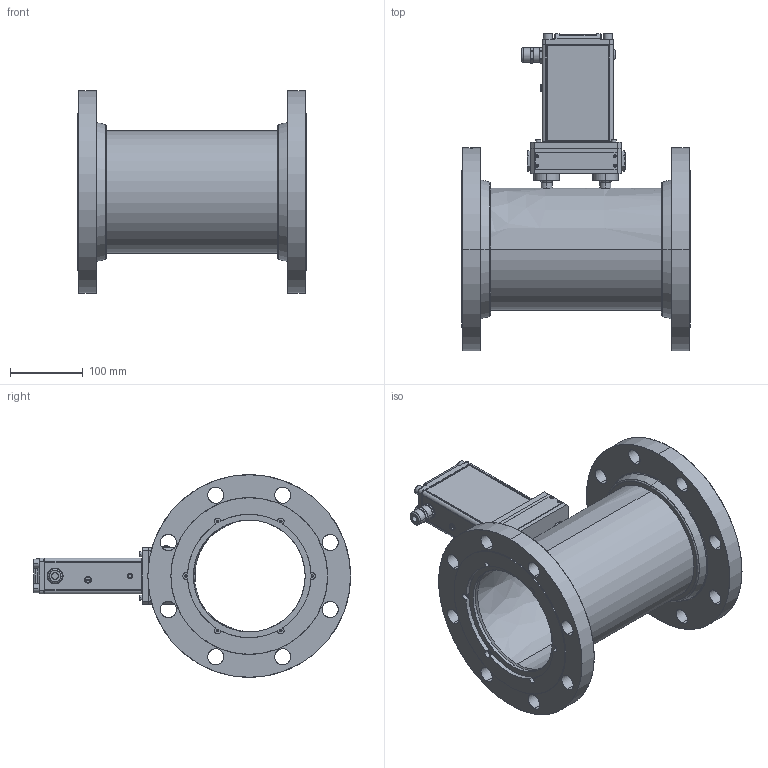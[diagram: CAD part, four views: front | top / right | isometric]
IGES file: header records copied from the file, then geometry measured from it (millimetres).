
Start section: SolidWorks IGES file using analytic representation for surfaces
Global section: file name: G:\Engineering\CAD MODELS FOR SALES\CAD MODEL STORAGE\SLA\SLAMF64\CUSTOMER FILES\IGES\SLAMF64-S-6A-0-G-REVB.IGS; native system: SolidWorks 2023; preprocessor: SolidWorks 2023; author: CFehr; date: 250507.093609; units: inch
Bounding box: 315 x 437.21 x 279.4 mm (x, y, z)
Surface area: 822942.8 mm2 (no closed solid volume)
Topology: 0 solids, 0 shells, 1326 faces, 19832 edges, 19782 vertices
Faces by surface type: revolution 766, bspline 560
